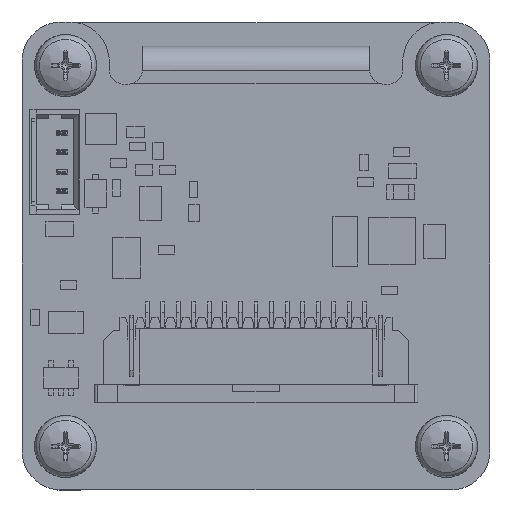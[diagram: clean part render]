
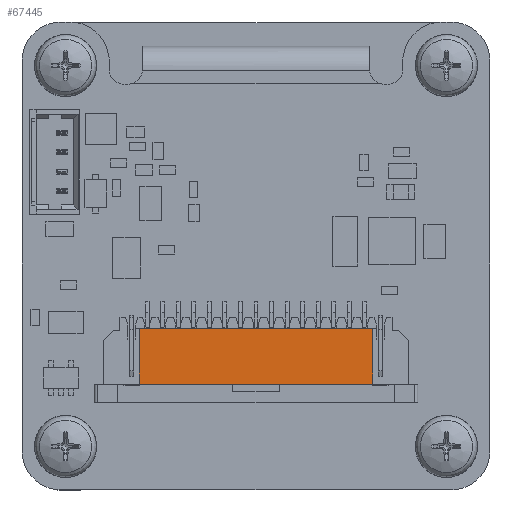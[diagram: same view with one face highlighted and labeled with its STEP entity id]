
A CAD part, top view. The second image highlights one B-rep face of the part: STEP entity #67445.
In plain terms, the highlighted planar face has unit normal (0, 0, 1).
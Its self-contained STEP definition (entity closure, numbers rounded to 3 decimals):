
#6801=LINE('',#97841,#15550);
#6802=LINE('',#97843,#15551);
#6803=LINE('',#97845,#15552);
#6804=LINE('',#97846,#15553);
#15550=VECTOR('',#80493,1.);
#15551=VECTOR('',#80494,1.);
#15552=VECTOR('',#80495,1.);
#15553=VECTOR('',#80496,1.);
#22052=PLANE('',#71420);
#25925=FACE_OUTER_BOUND('',#29438,.T.);
#29438=EDGE_LOOP('',(#55217,#55218,#55219,#55220));
#34669=VERTEX_POINT('',#97839);
#34670=VERTEX_POINT('',#97840);
#34671=VERTEX_POINT('',#97842);
#34672=VERTEX_POINT('',#97844);
#42028=EDGE_CURVE('',#34669,#34670,#6801,.T.);
#42029=EDGE_CURVE('',#34669,#34671,#6802,.T.);
#42030=EDGE_CURVE('',#34672,#34671,#6803,.T.);
#42031=EDGE_CURVE('',#34670,#34672,#6804,.T.);
#55217=ORIENTED_EDGE('',*,*,#42028,.F.);
#55218=ORIENTED_EDGE('',*,*,#42029,.T.);
#55219=ORIENTED_EDGE('',*,*,#42030,.F.);
#55220=ORIENTED_EDGE('',*,*,#42031,.F.);
#67445=ADVANCED_FACE('',(#25925),#22052,.F.);
#71420=AXIS2_PLACEMENT_3D('',#97838,#80491,#80492);
#80491=DIRECTION('center_axis',(0.,0.,-1.));
#80492=DIRECTION('ref_axis',(-1.,0.,0.));
#80493=DIRECTION('',(1.,0.,0.));
#80494=DIRECTION('',(0.,-1.,0.));
#80495=DIRECTION('',(-1.,0.,0.));
#80496=DIRECTION('',(0.,-1.,0.));
#97838=CARTESIAN_POINT('Origin',(24.8,5.55,2.713));
#97839=CARTESIAN_POINT('',(7.5,10.35,2.713));
#97840=CARTESIAN_POINT('',(22.5,10.35,2.713));
#97841=CARTESIAN_POINT('',(7.5,10.35,2.713));
#97842=CARTESIAN_POINT('',(7.5,6.75,2.713));
#97843=CARTESIAN_POINT('',(7.5,10.35,2.713));
#97844=CARTESIAN_POINT('',(22.5,6.75,2.713));
#97845=CARTESIAN_POINT('',(22.5,6.75,2.713));
#97846=CARTESIAN_POINT('',(22.5,10.35,2.713));
